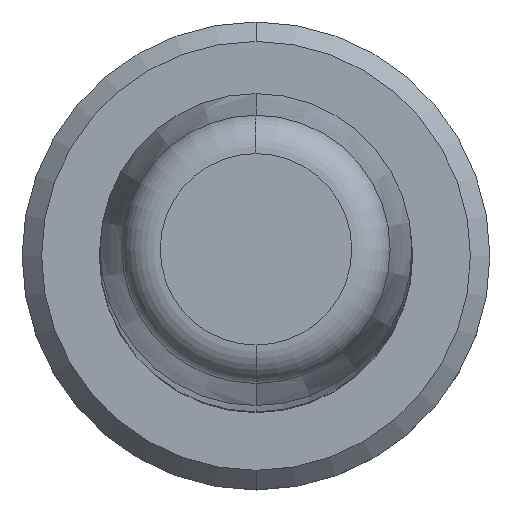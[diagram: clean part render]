
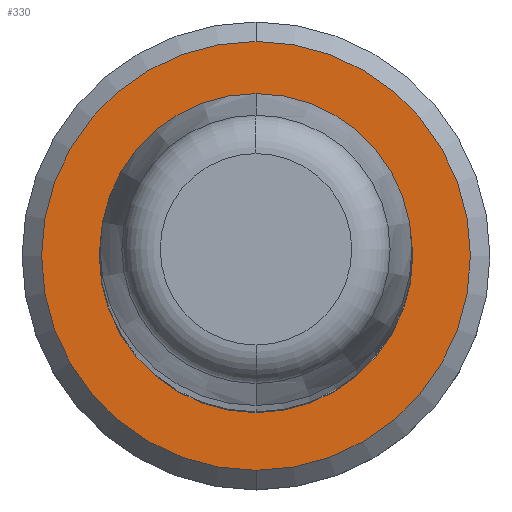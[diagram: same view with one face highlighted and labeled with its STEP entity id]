
A CAD part, top view. The second image highlights one B-rep face of the part: STEP entity #330.
In plain terms, the highlighted planar face has unit normal (0, 0, 1).
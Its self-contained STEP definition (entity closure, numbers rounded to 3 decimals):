
#70=CARTESIAN_POINT('',(0.,0.,3.));
#71=DIRECTION('',(0.,0.,-1.));
#72=DIRECTION('',(0.,1.,0.));
#73=AXIS2_PLACEMENT_3D('',#70,#71,#72);
#75=CARTESIAN_POINT('',(0.,0.,3.));
#76=DIRECTION('',(0.,0.,-1.));
#77=DIRECTION('',(0.,-1.,0.));
#78=AXIS2_PLACEMENT_3D('',#75,#76,#77);
#80=CARTESIAN_POINT('',(0.,0.,3.));
#81=DIRECTION('',(0.,0.,1.));
#82=DIRECTION('',(1.,0.,0.));
#83=AXIS2_PLACEMENT_3D('',#80,#81,#82);
#85=CARTESIAN_POINT('',(0.,0.,3.));
#86=DIRECTION('',(0.,0.,1.));
#87=DIRECTION('',(-1.,0.,0.));
#88=AXIS2_PLACEMENT_3D('',#85,#86,#87);
#167=CARTESIAN_POINT('',(0.,5.5,3.));
#168=CARTESIAN_POINT('',(0.,-5.5,3.));
#169=VERTEX_POINT('',#167);
#170=VERTEX_POINT('',#168);
#195=CARTESIAN_POINT('',(4.02,0.,3.));
#196=CARTESIAN_POINT('',(-4.02,0.,3.));
#197=VERTEX_POINT('',#195);
#198=VERTEX_POINT('',#196);
#314=CARTESIAN_POINT('',(0.,0.,3.));
#315=DIRECTION('',(0.,0.,1.));
#316=DIRECTION('',(0.,-1.,0.));
#317=AXIS2_PLACEMENT_3D('',#314,#315,#316);
#318=PLANE('',#317);
#320=ORIENTED_EDGE('',*,*,#319,.T.);
#322=ORIENTED_EDGE('',*,*,#321,.T.);
#323=EDGE_LOOP('',(#320,#322));
#324=FACE_OUTER_BOUND('',#323,.F.);
#326=ORIENTED_EDGE('',*,*,#325,.T.);
#327=ORIENTED_EDGE('',*,*,#304,.T.);
#328=EDGE_LOOP('',(#326,#327));
#329=FACE_BOUND('',#328,.F.);
#330=ADVANCED_FACE('',(#324,#329),#318,.T.);
#74=CIRCLE('',#73,5.5);
#79=CIRCLE('',#78,5.5);
#84=CIRCLE('',#83,4.02);
#89=CIRCLE('',#88,4.02);
#304=EDGE_CURVE('',#198,#197,#89,.T.);
#319=EDGE_CURVE('',#169,#170,#74,.T.);
#321=EDGE_CURVE('',#170,#169,#79,.T.);
#325=EDGE_CURVE('',#197,#198,#84,.T.);
